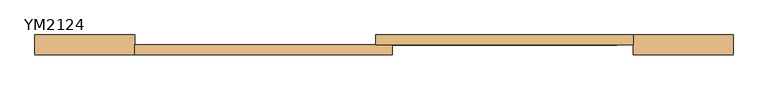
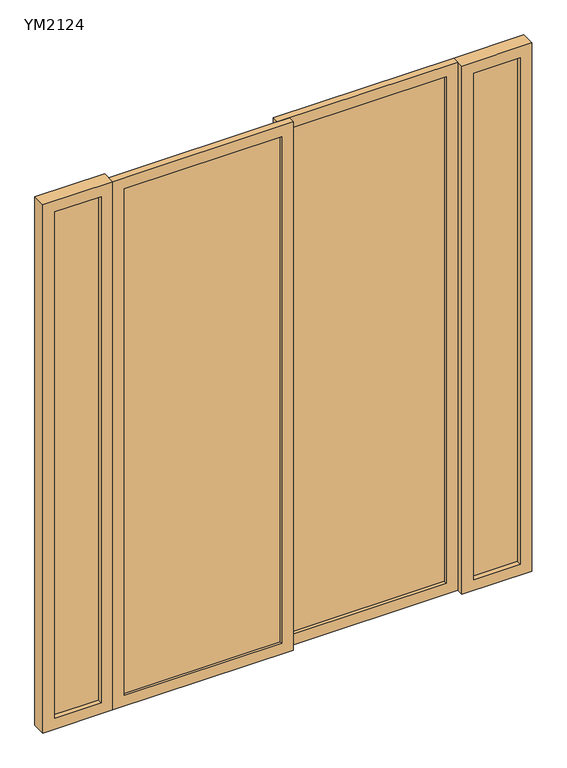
"""IFC4 building model written with IfcOpenShell, lengths in millimetres: door geometry, 移门-推拉门 : YM2124."""

from ifc_helpers import new_model, si_unit, frame, origin, place, context, project, spatial, polyline, outline, extrude, source, transform, mapped, element, save


def ym2124_6b214408(model_context):
    return source(origin(), model_context, "Body", "SweptSolid", [
        extrude(outline(polyline([(-25.0, -5.0), (-700.0, -5.0), (-700.0, 5.0), (-25.0, 5.0), (-25.0, -5.0)])), frame((0.0, 0.0, 50.0), z_axis=(0.0, 0.0, 1.0), x_axis=(1.0, 0.0, 0.0)), (0.0, 0.0, 1.0), 2300.0),
        extrude(outline(polyline([(700.0, 30.0), (25.0, 30.0), (25.0, 40.0), (700.0, 40.0), (700.0, 30.0)])), frame((0.0, 0.0, 50.0), z_axis=(0.0, 0.0, 1.0), x_axis=(1.0, 0.0, 0.0)), (0.0, 0.0, 1.0), 2300.0),
        extrude(outline(polyline([(-800.0, 5.7105538), (-1000.0, 5.7105538), (-1000.0, 25.7105538), (-800.0, 25.7105538), (-800.0, 5.7105538)])), frame((0.0, 0.0, 50.0), z_axis=(0.0, 0.0, 1.0), x_axis=(1.0, 0.0, 0.0)), (0.0, 0.0, 1.0), 2300.0),
        extrude(outline(polyline([(1000.0, 5.7105538), (800.0, 5.7105538), (800.0, 25.7105538), (1000.0, 25.7105538), (1000.0, 5.7105538)])), frame((0.0, 0.0, 50.0), z_axis=(0.0, 0.0, 1.0), x_axis=(1.0, 0.0, 0.0)), (0.0, 0.0, 1.0), 2300.0),
        extrude(outline(polyline([(0.0, 750.0), (2400.0, 750.0), (2400.0, -25.0), (0.0, -25.0), (0.0, 750.0)]), holes=[polyline([(2350.0, 25.0), (2350.0, 700.0), (50.0, 700.0), (50.0, 25.0), (2350.0, 25.0)])]), frame((0.0, 15.0, 0.0), z_axis=(0.0, 1.0, 0.0), x_axis=(0.0, 0.0, 1.0)), (0.0, 0.0, 1.0), 30.0),
        extrude(outline(polyline([(0.0, 25.0), (2400.0, 25.0), (2400.0, -750.0), (0.0, -750.0), (0.0, 25.0)]), holes=[polyline([(2350.0, -700.0), (2350.0, -25.0), (50.0, -25.0), (50.0, -700.0), (2350.0, -700.0)])]), frame((0.0, -15.0, 0.0), z_axis=(0.0, 1.0, 0.0), x_axis=(0.0, 0.0, 1.0)), (0.0, 0.0, 1.0), 30.0),
        extrude(outline(polyline([(0.0, -750.0), (2400.0, -750.0), (2400.0, -1050.0), (0.0, -1050.0), (0.0, -750.0)]), holes=[polyline([(2350.0, -1000.0), (2350.0, -800.0), (50.0, -800.0), (50.0, -1000.0), (2350.0, -1000.0)])]), frame((0.0, -15.0, 0.0), z_axis=(0.0, 1.0, 0.0), x_axis=(0.0, 0.0, 1.0)), (0.0, 0.0, 1.0), 60.0),
        extrude(outline(polyline([(0.0, 1050.0), (2400.0, 1050.0), (2400.0, 750.0), (0.0, 750.0), (0.0, 1050.0)]), holes=[polyline([(2350.0, 800.0), (2350.0, 1000.0), (50.0, 1000.0), (50.0, 800.0), (2350.0, 800.0)])]), frame((0.0, -15.0, 0.0), z_axis=(0.0, 1.0, 0.0), x_axis=(0.0, 0.0, 1.0)), (0.0, 0.0, 1.0), 60.0),
    ])


if __name__ == "__main__":
    model = new_model("IFC4")
    model_context = context("Model", 3, world=origin())
    ifc_project = project(units=[si_unit("LENGTHUNIT", "METRE", prefix="MILLI")], contexts=[model_context])
    site = spatial("IfcSite", under=ifc_project)
    building = spatial("IfcBuilding", under=site)
    placement = place(None, origin())
    ym2124_shape = ym2124_6b214408(model_context)
    element("IfcDoor", 1, ObjectType="移门-推拉门 : YM2124", at=placement, inside=building, context=model_context, shape_type="MappedRepresentation", body=[
        mapped(ym2124_shape, transform((0.0, 0.0, 0.0), x_axis=(1.0, 0.0, 0.0), y_axis=(0.0, 1.0, 0.0), z_axis=(0.0, 0.0, 1.0))),
    ])
    save(model, "model.ifc")
